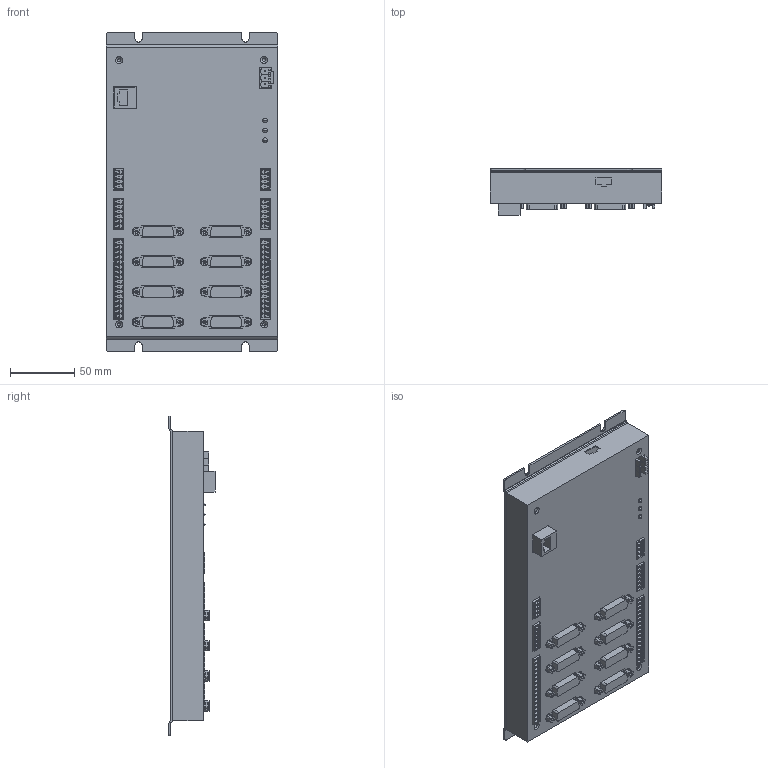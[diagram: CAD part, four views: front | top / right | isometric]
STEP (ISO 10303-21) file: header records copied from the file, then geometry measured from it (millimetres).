
FILE_DESCRIPTION (( 'STEP AP214' ), '1' );
FILE_NAME ('QLS-421-V1.5.STEP', '2025-09-16T00:42:16', ( '' ), ( '' ), 'SwSTEP 2.0', 'SolidWorks 2025', '' );
FILE_SCHEMA (( 'AUTOMOTIVE_DESIGN' ));
Length unit declared in the file: millimetre
Products named in the file (16): 螺母柱M3-3; DB9装配体; QLS-421-V1.5; DB15装配体; 直插式4pin插拔式连接器-母座; 端子KF2EDGVR5点083Pin; DB15; QLS-421板-装配体(A4); MCC-421(A4); QLS421_3D_V1.5（单网口）下壳; 螺母柱M3-5; QLS421_3D_V1.5（单网口）上壳; 直插式16pin插拔式连接器-母座; 直插式发光二级管-3mm; 网口; 直插式6pin插拔式连接器-母座
Assembly tree (31 placements, depth 4):
  QLS-421-V1.5
    QLS421_3D_V1.5（单网口）下壳
    QLS-421板-装配体(A4)
      MCC-421(A4)
      DB15装配体  x8
        DB15
        螺母柱M3-3
        螺母柱M3-5
      直插式16pin插拔式连接器-母座  x2
      直插式6pin插拔式连接器-母座  x2
      直插式发光二级管-3mm  x3
      网口
      端子KF2EDGVR5点083Pin
      DB9装配体
        螺母柱M3-3  x2
      直插式4pin插拔式连接器-母座  x2
    QLS421_3D_V1.5（单网口）上壳
Bounding box: 133 x 35.7 x 248 mm (x, y, z)
Volume: 167563.8 mm3; surface area: 255300.8 mm2
Topology: 110 solids, 110 shells, 3635 faces, 9300 edges, 6093 vertices
Faces by surface type: plane 2011, cylinder 1432, cone 186, sphere 6
Entity records: 61432 total; most frequent: DIRECTION 10762, CARTESIAN_POINT 10357, ORIENTED_EDGE 10106, EDGE_CURVE 5053, AXIS2_PLACEMENT_3D 3773, VERTEX_POINT 3352, VECTOR 3216, LINE 3216
